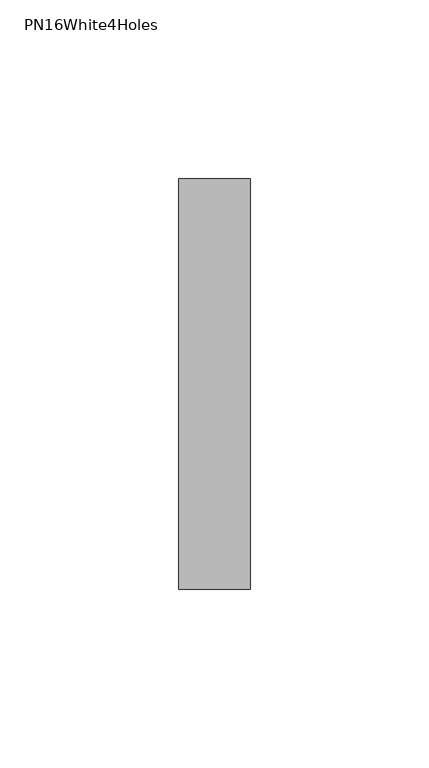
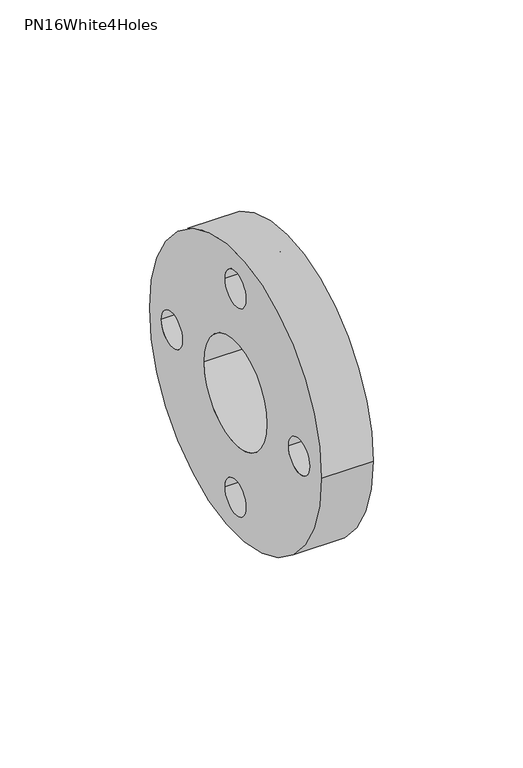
"""IFC4 building model written with IfcOpenShell, lengths in millimetres: pipe fitting geometry, PipeAccessory_GirpiHTA_CPVC_BackingRingsPN16White4HolesFlangeAndGasket : PN16White4Holes."""

from ifc_helpers import new_model, si_unit, point, frame, frame_2d, origin, origin_2d, place, context, project, spatial, circle_curve, trimmed, segment, composite_curve, outline, extrude, source, transform, mapped, element, save


def pn16white4holes_4982ff81(model_context):
    return source(origin(), model_context, "Body", "SweptSolid", [
        extrude(outline(composite_curve([segment(trimmed(circle_curve(origin_2d(), 57.5), [point((-57.5, 0.0))], [point((57.5, 0.0))], False, "CARTESIAN"), True, "CONTINUOUS"), segment(trimmed(circle_curve(origin_2d(), 57.5), [point((57.5, 0.0))], [point((-57.5, 0.0))], False, "CARTESIAN"), True, "CONTINUOUS")], self_intersect=False), holes=[composite_curve([segment(trimmed(circle_curve(origin_2d(), 21.0), [point((-21.0, 0.0))], [point((21.0, 0.0))], True, "CARTESIAN"), True, "CONTINUOUS"), segment(trimmed(circle_curve(origin_2d(), 21.0), [point((21.0, 0.0))], [point((-21.0, 0.0))], True, "CARTESIAN"), True, "CONTINUOUS")], self_intersect=False), composite_curve([segment(trimmed(circle_curve(frame_2d((0.0, 42.5)), 7.0), [point((-7.0, 42.5))], [point((7.0, 42.5))], True, "CARTESIAN"), True, "CONTINUOUS"), segment(trimmed(circle_curve(frame_2d((0.0, 42.5)), 7.0), [point((7.0, 42.5))], [point((-7.0, 42.5))], True, "CARTESIAN"), True, "CONTINUOUS")], self_intersect=False), composite_curve([segment(trimmed(circle_curve(frame_2d((42.5, 0.0)), 7.0), [point((35.5, 0.0))], [point((49.5, 0.0))], True, "CARTESIAN"), True, "CONTINUOUS"), segment(trimmed(circle_curve(frame_2d((42.5, 0.0)), 7.0), [point((49.5, 0.0))], [point((35.5, 0.0))], True, "CARTESIAN"), True, "CONTINUOUS")], self_intersect=False), composite_curve([segment(trimmed(circle_curve(frame_2d((0.0, -42.5)), 7.0), [point((-7.0, -42.5))], [point((7.0, -42.5))], True, "CARTESIAN"), True, "CONTINUOUS"), segment(trimmed(circle_curve(frame_2d((0.0, -42.5)), 7.0), [point((7.0, -42.5))], [point((-7.0, -42.5))], True, "CARTESIAN"), True, "CONTINUOUS")], self_intersect=False), composite_curve([segment(trimmed(circle_curve(frame_2d((-42.5, 0.0)), 7.0), [point((-49.5, 0.0))], [point((-35.5, 0.0))], True, "CARTESIAN"), True, "CONTINUOUS"), segment(trimmed(circle_curve(frame_2d((-42.5, 0.0)), 7.0), [point((-35.5, 0.0))], [point((-49.5, 0.0))], True, "CARTESIAN"), True, "CONTINUOUS")], self_intersect=False)]), frame((-10.0, 0.0, 0.0), z_axis=(1.0, 0.0, 0.0), x_axis=(0.0, 1.0, 0.0)), (0.0, 0.0, 1.0), 20.0),
    ])


if __name__ == "__main__":
    model = new_model("IFC4")
    model_context = context("Model", 3, world=origin())
    ifc_project = project(units=[si_unit("LENGTHUNIT", "METRE", prefix="MILLI")], contexts=[model_context])
    site = spatial("IfcSite", under=ifc_project)
    building = spatial("IfcBuilding", under=site)
    placement = place(None, origin())
    pn16white4holes_shape = pn16white4holes_4982ff81(model_context)
    element("IfcPipeFitting", 1, ObjectType="PipeAccessory_GirpiHTA_CPVC_BackingRingsPN16White4HolesFlangeAndGasket : PN16White4Holes", at=placement, inside=building, context=model_context, shape_type="MappedRepresentation", body=[
        mapped(pn16white4holes_shape, transform((0.0, 0.0, 0.0), x_axis=(1.0, 0.0, 0.0), y_axis=(0.0, 1.0, 0.0), z_axis=(0.0, 0.0, 1.0))),
    ])
    save(model, "model.ifc")
